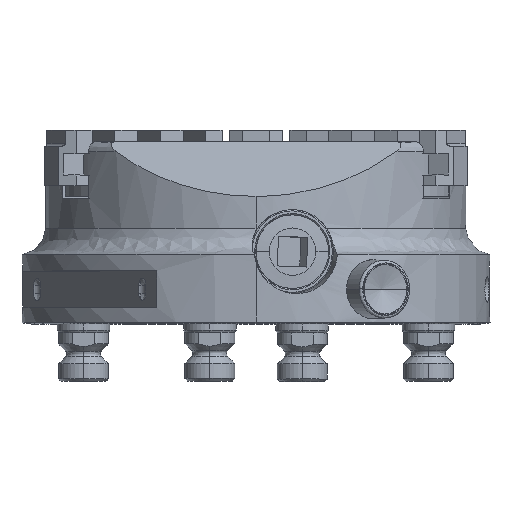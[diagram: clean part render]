
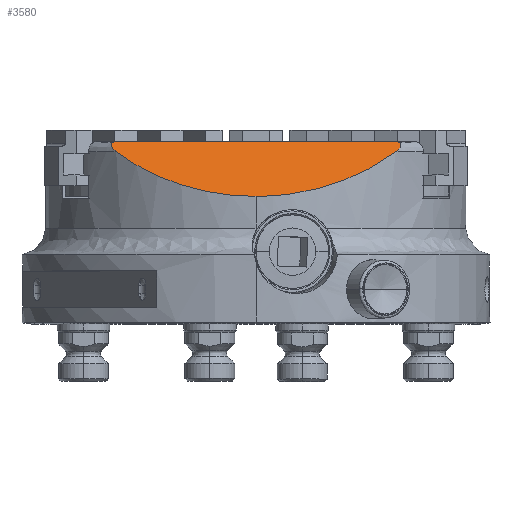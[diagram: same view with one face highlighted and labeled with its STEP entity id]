
A CAD part, top view. The second image highlights one B-rep face of the part: STEP entity #3580.
In plain terms, the highlighted planar face has unit normal (0, 0.766, 0.643).
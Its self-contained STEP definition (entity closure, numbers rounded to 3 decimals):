
#3580 = ADVANCED_FACE ( 'NONE', ( #9509 ), #9512, .F. ) ;
#8340 =( BOUNDED_CURVE ( )  B_SPLINE_CURVE ( 3, ( #46941, #46872, #46951, #46953 ),
 .UNSPECIFIED., .F., .T. ) 
 B_SPLINE_CURVE_WITH_KNOTS ( ( 4, 4 ),
 ( 5.556, 6.283 ),
 .UNSPECIFIED. ) 
 CURVE ( )  GEOMETRIC_REPRESENTATION_ITEM ( )  RATIONAL_B_SPLINE_CURVE ( ( 1., 0.956, 0.956, 1. ) ) 
 REPRESENTATION_ITEM ( '' )  );
#8572 =( BOUNDED_CURVE ( )  B_SPLINE_CURVE ( 3, ( #57174, #57179, #57180, #57181 ),
 .UNSPECIFIED., .F., .T. ) 
 B_SPLINE_CURVE_WITH_KNOTS ( ( 4, 4 ),
 ( 0., 0.727 ),
 .UNSPECIFIED. ) 
 CURVE ( )  GEOMETRIC_REPRESENTATION_ITEM ( )  RATIONAL_B_SPLINE_CURVE ( ( 1., 0.956, 0.956, 1. ) ) 
 REPRESENTATION_ITEM ( '' )  );
#9509 = FACE_OUTER_BOUND ( 'NONE', #55787, .T. ) ;
#9511 = CARTESIAN_POINT ( 'NONE',  ( 75., 69., 55. ) ) ;
#9512 = PLANE ( 'NONE',  #45376 ) ;
#9514 = DIRECTION ( 'NONE',  ( 0., -0.766, -0.643 ) ) ;
#9515 = DIRECTION ( 'NONE',  ( 0., 0.643, -0.766 ) ) ;
#18441 = CARTESIAN_POINT ( 'NONE',  ( 53.178, 65., 59.767 ) ) ;
#18580 = CARTESIAN_POINT ( 'NONE',  ( 0., 48.023, 80. ) ) ;
#19140 = EDGE_CURVE ( 'NONE', #40778, #40917, #8340, .T. ) ;
#23215 = EDGE_CURVE ( 'NONE', #24156, #24147, #56768, .T. ) ;
#23249 = EDGE_CURVE ( 'NONE', #24090, #24156, #54535, .T. ) ;
#23280 = EDGE_CURVE ( 'NONE', #40917, #24090, #8572, .T. ) ;
#23281 = EDGE_CURVE ( 'NONE', #24147, #40778, #54531, .T. ) ;
#24090 = VERTEX_POINT ( 'NONE', #64272 ) ;
#24147 = VERTEX_POINT ( 'NONE', #64486 ) ;
#24156 = VERTEX_POINT ( 'NONE', #64510 ) ;
#40778 = VERTEX_POINT ( 'NONE', #18441 ) ;
#40917 = VERTEX_POINT ( 'NONE', #18580 ) ;
#45376 = AXIS2_PLACEMENT_3D ( 'NONE', #9511, #9514, #9515 ) ;
#46872 = CARTESIAN_POINT ( 'NONE',  ( 38.363, 53.94, 72.948 ) ) ;
#46941 = CARTESIAN_POINT ( 'NONE',  ( 53.178, 65., 59.767 ) ) ;
#46951 = CARTESIAN_POINT ( 'NONE',  ( 19.83, 48.023, 80. ) ) ;
#46953 = CARTESIAN_POINT ( 'NONE',  ( 0., 48.023, 80. ) ) ;
#51787 = VECTOR ( 'NONE', #56770, 1000. ) ;
#54531 = B_SPLINE_CURVE_WITH_KNOTS ( 'NONE', 3,
 ( #57165, #57178, #57182, #57183, #57184, #57185, #57186, #57187, #57188, #57189, #57190, #57191, #57192, #57193, #57194, #57195, #57196, #57197, #57198, #57199, #57200, #57201, #57202, #57203 ),
 .UNSPECIFIED., .F., .F.,
 ( 4, 2, 2, 2, 2, 2, 2, 2, 2, 2, 2, 4 ),
 ( 0., 0.001, 0.002, 0.002, 0.003, 0.003, 0.004, 0.004, 0.005, 0.006, 0.007, 0.008 ),
 .UNSPECIFIED. ) ;
#54535 = B_SPLINE_CURVE_WITH_KNOTS ( 'NONE', 3,
 ( #56878, #56879, #56883, #56884, #56885, #56886, #56887, #56888, #56889, #56890, #56891, #56892, #56893, #56894, #56895, #56896, #56897, #56898, #56899, #56900, #56901, #56902 ),
 .UNSPECIFIED., .F., .F.,
 ( 4, 2, 2, 2, 2, 2, 2, 2, 2, 2, 4 ),
 ( 0., 0.002, 0.003, 0.004, 0.004, 0.005, 0.005, 0.006, 0.006, 0.007, 0.008 ),
 .UNSPECIFIED. ) ;
#55787 = EDGE_LOOP ( 'NONE', ( #61383, #61384, #61385, #61386, #61387 ) ) ;
#56768 = LINE ( 'NONE', #56769, #51787 ) ;
#56769 = CARTESIAN_POINT ( 'NONE',  ( 75., 69., 55. ) ) ;
#56770 = DIRECTION ( 'NONE',  ( 1., 0., 0. ) ) ;
#56878 = CARTESIAN_POINT ( 'NONE',  ( -53.178, 65., 59.767 ) ) ;
#56879 = CARTESIAN_POINT ( 'NONE',  ( -53.638, 65.343, 59.358 ) ) ;
#56883 = CARTESIAN_POINT ( 'NONE',  ( -54.05, 65.706, 58.926 ) ) ;
#56884 = CARTESIAN_POINT ( 'NONE',  ( -54.559, 66.296, 58.222 ) ) ;
#56885 = CARTESIAN_POINT ( 'NONE',  ( -54.711, 66.503, 57.976 ) ) ;
#56886 = CARTESIAN_POINT ( 'NONE',  ( -54.891, 66.822, 57.595 ) ) ;
#56887 = CARTESIAN_POINT ( 'NONE',  ( -54.943, 66.93, 57.467 ) ) ;
#56888 = CARTESIAN_POINT ( 'NONE',  ( -55.028, 67.151, 57.204 ) ) ;
#56889 = CARTESIAN_POINT ( 'NONE',  ( -55.061, 67.263, 57.07 ) ) ;
#56890 = CARTESIAN_POINT ( 'NONE',  ( -55.099, 67.487, 56.803 ) ) ;
#56891 = CARTESIAN_POINT ( 'NONE',  ( -55.105, 67.599, 56.669 ) ) ;
#56892 = CARTESIAN_POINT ( 'NONE',  ( -55.083, 67.825, 56.4 ) ) ;
#56893 = CARTESIAN_POINT ( 'NONE',  ( -55.054, 67.939, 56.264 ) ) ;
#56894 = CARTESIAN_POINT ( 'NONE',  ( -54.953, 68.156, 56.005 ) ) ;
#56895 = CARTESIAN_POINT ( 'NONE',  ( -54.879, 68.262, 55.879 ) ) ;
#56896 = CARTESIAN_POINT ( 'NONE',  ( -54.69, 68.453, 55.651 ) ) ;
#56897 = CARTESIAN_POINT ( 'NONE',  ( -54.574, 68.539, 55.549 ) ) ;
#56898 = CARTESIAN_POINT ( 'NONE',  ( -54.17, 68.764, 55.281 ) ) ;
#56899 = CARTESIAN_POINT ( 'NONE',  ( -53.84, 68.861, 55.165 ) ) ;
#56900 = CARTESIAN_POINT ( 'NONE',  ( -53.161, 68.978, 55.026 ) ) ;
#56901 = CARTESIAN_POINT ( 'NONE',  ( -52.805, 69., 55. ) ) ;
#56902 = CARTESIAN_POINT ( 'NONE',  ( -52.45, 69., 55. ) ) ;
#57165 = CARTESIAN_POINT ( 'NONE',  ( 52.45, 69., 55. ) ) ;
#57174 = CARTESIAN_POINT ( 'NONE',  ( 0., 48.023, 80. ) ) ;
#57178 = CARTESIAN_POINT ( 'NONE',  ( 52.805, 69., 55. ) ) ;
#57179 = CARTESIAN_POINT ( 'NONE',  ( -19.83, 48.023, 80. ) ) ;
#57180 = CARTESIAN_POINT ( 'NONE',  ( -38.363, 53.94, 72.948 ) ) ;
#57181 = CARTESIAN_POINT ( 'NONE',  ( -53.178, 65., 59.767 ) ) ;
#57182 = CARTESIAN_POINT ( 'NONE',  ( 53.157, 68.979, 55.025 ) ) ;
#57183 = CARTESIAN_POINT ( 'NONE',  ( 53.671, 68.891, 55.13 ) ) ;
#57184 = CARTESIAN_POINT ( 'NONE',  ( 53.836, 68.852, 55.176 ) ) ;
#57185 = CARTESIAN_POINT ( 'NONE',  ( 54.153, 68.752, 55.295 ) ) ;
#57186 = CARTESIAN_POINT ( 'NONE',  ( 54.304, 68.689, 55.37 ) ) ;
#57187 = CARTESIAN_POINT ( 'NONE',  ( 54.571, 68.542, 55.546 ) ) ;
#57188 = CARTESIAN_POINT ( 'NONE',  ( 54.689, 68.454, 55.651 ) ) ;
#57189 = CARTESIAN_POINT ( 'NONE',  ( 54.879, 68.263, 55.878 ) ) ;
#57190 = CARTESIAN_POINT ( 'NONE',  ( 54.952, 68.158, 56.003 ) ) ;
#57191 = CARTESIAN_POINT ( 'NONE',  ( 55.054, 67.94, 56.263 ) ) ;
#57192 = CARTESIAN_POINT ( 'NONE',  ( 55.082, 67.828, 56.396 ) ) ;
#57193 = CARTESIAN_POINT ( 'NONE',  ( 55.105, 67.602, 56.666 ) ) ;
#57194 = CARTESIAN_POINT ( 'NONE',  ( 55.099, 67.487, 56.803 ) ) ;
#57195 = CARTESIAN_POINT ( 'NONE',  ( 55.042, 67.151, 57.204 ) ) ;
#57196 = CARTESIAN_POINT ( 'NONE',  ( 54.952, 66.93, 57.467 ) ) ;
#57197 = CARTESIAN_POINT ( 'NONE',  ( 54.712, 66.504, 57.974 ) ) ;
#57198 = CARTESIAN_POINT ( 'NONE',  ( 54.563, 66.301, 58.216 ) ) ;
#57199 = CARTESIAN_POINT ( 'NONE',  ( 54.225, 65.908, 58.685 ) ) ;
#57200 = CARTESIAN_POINT ( 'NONE',  ( 54.035, 65.717, 58.912 ) ) ;
#57201 = CARTESIAN_POINT ( 'NONE',  ( 53.626, 65.349, 59.351 ) ) ;
#57202 = CARTESIAN_POINT ( 'NONE',  ( 53.408, 65.172, 59.563 ) ) ;
#57203 = CARTESIAN_POINT ( 'NONE',  ( 53.178, 65., 59.767 ) ) ;
#61383 = ORIENTED_EDGE ( 'NONE', *, *, #23215, .F. ) ;
#61384 = ORIENTED_EDGE ( 'NONE', *, *, #23249, .F. ) ;
#61385 = ORIENTED_EDGE ( 'NONE', *, *, #23280, .F. ) ;
#61386 = ORIENTED_EDGE ( 'NONE', *, *, #19140, .F. ) ;
#61387 = ORIENTED_EDGE ( 'NONE', *, *, #23281, .F. ) ;
#64272 = CARTESIAN_POINT ( 'NONE',  ( -53.178, 65., 59.767 ) ) ;
#64486 = CARTESIAN_POINT ( 'NONE',  ( 52.45, 69., 55. ) ) ;
#64510 = CARTESIAN_POINT ( 'NONE',  ( -52.45, 69., 55. ) ) ;
